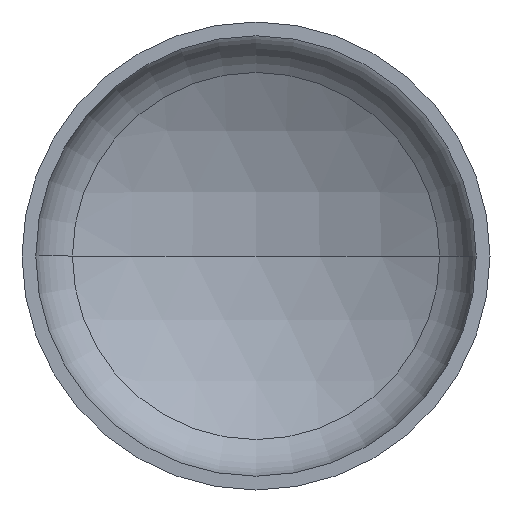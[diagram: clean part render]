
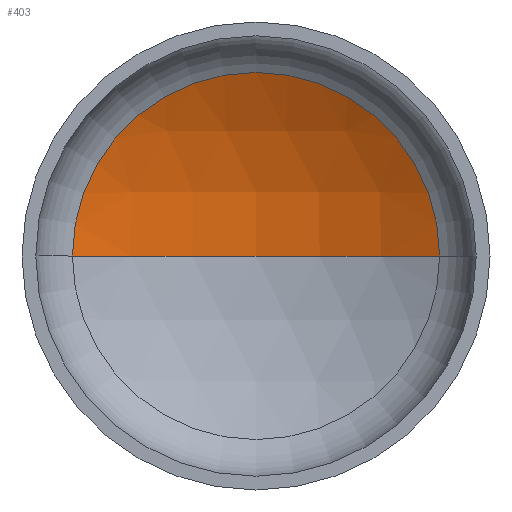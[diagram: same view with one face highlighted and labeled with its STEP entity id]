
A CAD part, front view. The second image highlights one B-rep face of the part: STEP entity #403.
In plain terms, the highlighted spherical face has radius 406 mm.
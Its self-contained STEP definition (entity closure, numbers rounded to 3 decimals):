
#7 = ORIENTED_EDGE ( 'NONE', *, *, #170, .T. ) ;
#8 = ORIENTED_EDGE ( 'NONE', *, *, #171, .T. ) ;
#11 = CARTESIAN_POINT ( 'NONE',  ( -199.287, 112.957, 0. ) ) ;
#20 = ORIENTED_EDGE ( 'NONE', *, *, #174, .F. ) ;
#24 = DIRECTION ( 'NONE',  ( -1., 0., 0. ) ) ;
#40 = VERTEX_POINT ( 'NONE', #202 ) ;
#68 = VERTEX_POINT ( 'NONE', #11 ) ;
#74 = EDGE_LOOP ( 'NONE', ( #20, #8, #7 ) ) ;
#88 = DIRECTION ( 'NONE',  ( 0., 0., 1. ) ) ;
#105 = VERTEX_POINT ( 'NONE', #226 ) ;
#117 = AXIS2_PLACEMENT_3D ( 'NONE', #275, #88, #294 ) ;
#119 = AXIS2_PLACEMENT_3D ( 'NONE', #360, #231, #383 ) ;
#124 = AXIS2_PLACEMENT_3D ( 'NONE', #147, #315, #184 ) ;
#143 = CIRCLE ( 'NONE', #117, 406. ) ;
#147 = CARTESIAN_POINT ( 'NONE',  ( 0., 112.957, 0. ) ) ;
#161 = DIRECTION ( 'NONE',  ( 0., 0., -1. ) ) ;
#170 = EDGE_CURVE ( 'NONE', #40, #68, #331, .T. ) ;
#171 = EDGE_CURVE ( 'NONE', #105, #40, #282, .T. ) ;
#174 = EDGE_CURVE ( 'NONE', #105, #68, #143, .T. ) ;
#184 = DIRECTION ( 'NONE',  ( 1., 0., 0. ) ) ;
#202 = CARTESIAN_POINT ( 'NONE',  ( 199.287, 112.957, 0. ) ) ;
#216 = CARTESIAN_POINT ( 'NONE',  ( 0., -240.767, 0. ) ) ;
#224 = AXIS2_PLACEMENT_3D ( 'NONE', #216, #161, #24 ) ;
#226 = CARTESIAN_POINT ( 'NONE',  ( 0., 165.233, 0. ) ) ;
#231 = DIRECTION ( 'NONE',  ( 0., 0., -1. ) ) ;
#256 = SPHERICAL_SURFACE ( 'NONE', #224, 406. ) ;
#275 = CARTESIAN_POINT ( 'NONE',  ( 0., -240.767, 0. ) ) ;
#282 = CIRCLE ( 'NONE', #119, 406. ) ;
#294 = DIRECTION ( 'NONE',  ( 1., 0., 0. ) ) ;
#315 = DIRECTION ( 'NONE',  ( 0., -1., 0. ) ) ;
#331 = CIRCLE ( 'NONE', #124, 199.287 ) ;
#360 = CARTESIAN_POINT ( 'NONE',  ( 0., -240.767, 0. ) ) ;
#383 = DIRECTION ( 'NONE',  ( -1., 0., 0. ) ) ;
#403 = ADVANCED_FACE ( 'NONE', ( #409 ), #256, .F. ) ;
#409 = FACE_OUTER_BOUND ( 'NONE', #74, .T. ) ;
